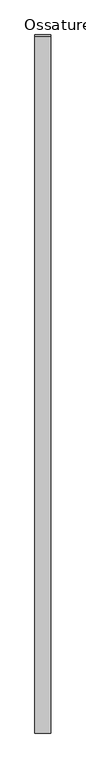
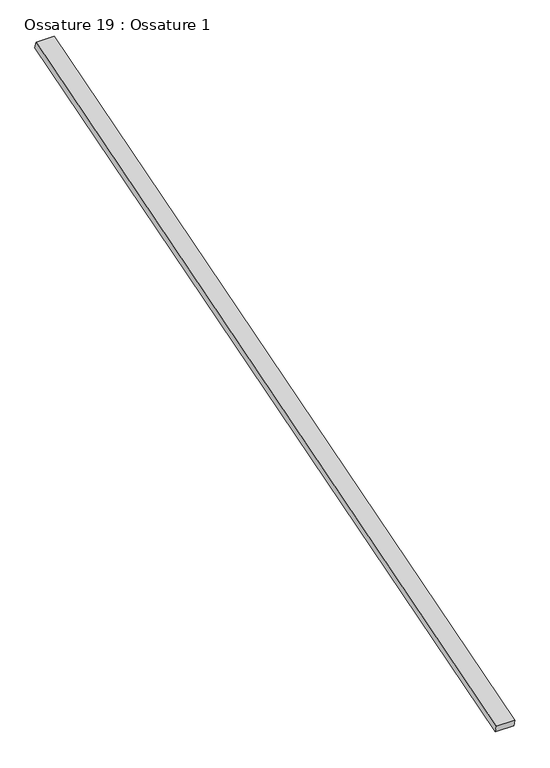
"""IFC4 building model written with IfcOpenShell, lengths in millimetres: beam geometry, Ossature 19 : Ossature 1."""

from ifc_helpers import new_model, si_unit, frame, origin, place, context, project, spatial, polyline, outline, extrude, source, transform, mapped, element, save


def ossature_19_ossature_1_1a796ebd(model_context):
    return source(origin(), model_context, "Body", "SweptSolid", [
        extrude(outline(polyline([(0.0, 0.0), (0.0, -4543.0299679), (-100.0, -4543.0299679), (-100.0, 0.0), (0.0, 0.0)])), frame((4833.8466393, -833.3913565, 8153.6336115), z_axis=(0.0, -0.28734788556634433, 0.9578262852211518), x_axis=(-1.0, 0.0, 0.0)), (0.0, 0.0, 1.0), 40.0),
    ])


if __name__ == "__main__":
    model = new_model("IFC4")
    model_context = context("Model", 3, world=origin())
    ifc_project = project(units=[si_unit("LENGTHUNIT", "METRE", prefix="MILLI")], contexts=[model_context])
    site = spatial("IfcSite", under=ifc_project)
    building = spatial("IfcBuilding", under=site)
    placement = place(None, origin())
    ossature_19_ossature_1_shape = ossature_19_ossature_1_1a796ebd(model_context)
    element("IfcBeam", 1, ObjectType="Ossature 19 : Ossature 1", at=placement, inside=building, context=model_context, shape_type="MappedRepresentation", body=[
        mapped(ossature_19_ossature_1_shape, transform((0.0, 0.0, 0.0), x_axis=(1.0, 0.0, 0.0), y_axis=(0.0, 1.0, 0.0), z_axis=(0.0, 0.0, 1.0))),
    ])
    save(model, "model.ifc")
